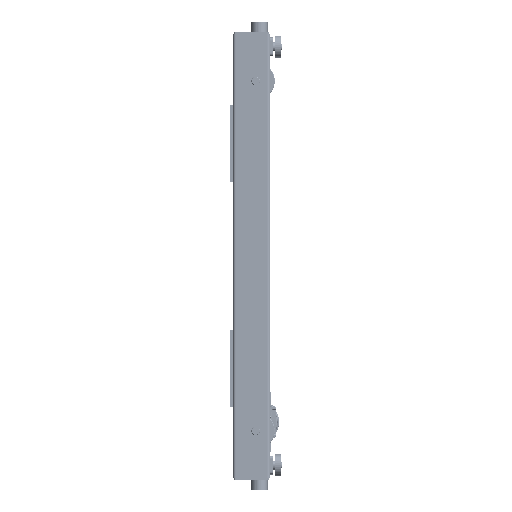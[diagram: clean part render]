
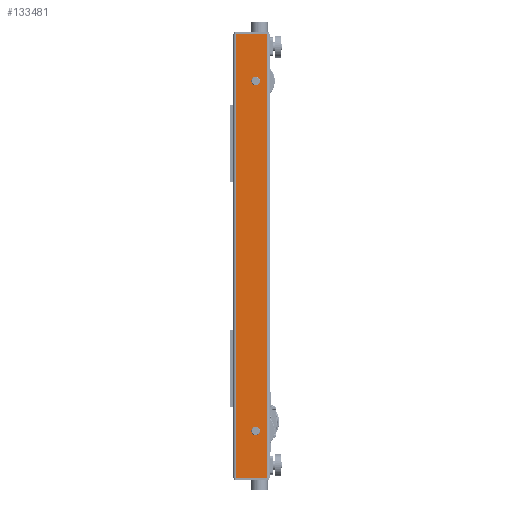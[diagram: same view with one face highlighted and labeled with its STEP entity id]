
A CAD part, left-side view. The second image highlights one B-rep face of the part: STEP entity #133481.
In plain terms, the highlighted planar face has unit normal (-1, 0, 0).
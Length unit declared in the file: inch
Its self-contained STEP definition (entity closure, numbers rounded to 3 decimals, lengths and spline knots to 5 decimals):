
#1103 = VERTEX_POINT ( 'NONE', #14510 ) ;
#1213 = VERTEX_POINT ( 'NONE', #6618 ) ;
#1687 = EDGE_CURVE ( 'NONE', #52474, #76353, #186018, .T. ) ;
#2762 = DIRECTION ( 'NONE',  ( 1., 0., 0. ) ) ;
#3041 = EDGE_CURVE ( 'NONE', #1213, #78931, #78334, .T. ) ;
#4545 = VERTEX_POINT ( 'NONE', #149749 ) ;
#5867 = EDGE_CURVE ( 'NONE', #183522, #4545, #170584, .T. ) ;
#6371 = CARTESIAN_POINT ( 'NONE',  ( 0., 0.5, 71.125 ) ) ;
#6618 = CARTESIAN_POINT ( 'NONE',  ( 0., 5.5, 71.125 ) ) ;
#7115 = FACE_BOUND ( 'NONE', #170871, .T. ) ;
#8758 = EDGE_CURVE ( 'NONE', #4545, #183522, #71787, .T. ) ;
#12477 = EDGE_CURVE ( 'NONE', #78931, #76353, #116049, .T. ) ;
#14510 = CARTESIAN_POINT ( 'NONE',  ( 0., 3.016, 63.562 ) ) ;
#17351 = DIRECTION ( 'NONE',  ( 0., 0., -1. ) ) ;
#32669 = CARTESIAN_POINT ( 'NONE',  ( 0., 5.5, 71.125 ) ) ;
#32914 = VECTOR ( 'NONE', #145118, 39.37008 ) ;
#36503 = DIRECTION ( 'NONE',  ( 0., 0., -1. ) ) ;
#40735 = ORIENTED_EDGE ( 'NONE', *, *, #8758, .T. ) ;
#44345 = CARTESIAN_POINT ( 'NONE',  ( 0., 2.326, 7.563 ) ) ;
#46601 = DIRECTION ( 'NONE',  ( 1., 0., 0. ) ) ;
#47552 = CARTESIAN_POINT ( 'NONE',  ( 0., 0.5, 71.125 ) ) ;
#50162 = DIRECTION ( 'NONE',  ( 0., 0., -1. ) ) ;
#52474 = VERTEX_POINT ( 'NONE', #71275 ) ;
#53886 = ORIENTED_EDGE ( 'NONE', *, *, #174224, .F. ) ;
#56152 = DIRECTION ( 'NONE',  ( 0., 1., 0. ) ) ;
#57044 = CARTESIAN_POINT ( 'NONE',  ( 0., 5.5, 0. ) ) ;
#62519 = EDGE_CURVE ( 'NONE', #1103, #108904, #179987, .T. ) ;
#65642 = CARTESIAN_POINT ( 'NONE',  ( 0., 0.5, 71.125 ) ) ;
#66406 = AXIS2_PLACEMENT_3D ( 'NONE', #135913, #46601, #137803 ) ;
#70213 = LINE ( 'NONE', #65642, #133834 ) ;
#71275 = CARTESIAN_POINT ( 'NONE',  ( 0., 0.5, 71.125 ) ) ;
#71787 = CIRCLE ( 'NONE', #146144, 0.69 ) ;
#75167 = ORIENTED_EDGE ( 'NONE', *, *, #1687, .F. ) ;
#76353 = VERTEX_POINT ( 'NONE', #125243 ) ;
#77145 = AXIS2_PLACEMENT_3D ( 'NONE', #47552, #165959, #165004 ) ;
#78334 = LINE ( 'NONE', #32669, #167505 ) ;
#78931 = VERTEX_POINT ( 'NONE', #57044 ) ;
#86555 = VECTOR ( 'NONE', #36503, 39.37008 ) ;
#86961 = AXIS2_PLACEMENT_3D ( 'NONE', #44345, #178309, #148167 ) ;
#94439 = CIRCLE ( 'NONE', #66406, 0.69 ) ;
#94785 = DIRECTION ( 'NONE',  ( 0., -1., 0. ) ) ;
#96240 = DIRECTION ( 'NONE',  ( 1., 0., 0. ) ) ;
#100092 = CARTESIAN_POINT ( 'NONE',  ( 0., 2.326, 8.253 ) ) ;
#101780 = ORIENTED_EDGE ( 'NONE', *, *, #12477, .T. ) ;
#107206 = ORIENTED_EDGE ( 'NONE', *, *, #110548, .T. ) ;
#108904 = VERTEX_POINT ( 'NONE', #160876 ) ;
#110548 = EDGE_CURVE ( 'NONE', #108904, #1103, #94439, .T. ) ;
#116049 = LINE ( 'NONE', #173309, #32914 ) ;
#125243 = CARTESIAN_POINT ( 'NONE',  ( 0., 0.5, 0. ) ) ;
#127107 = EDGE_LOOP ( 'NONE', ( #40735, #171420 ) ) ;
#129517 = FACE_BOUND ( 'NONE', #127107, .T. ) ;
#133481 = ADVANCED_FACE ( 'NONE', ( #129517, #7115, #188691 ), #174126, .F. ) ;
#133834 = VECTOR ( 'NONE', #94785, 39.37008 ) ;
#135913 = CARTESIAN_POINT ( 'NONE',  ( 0., 2.326, 63.562 ) ) ;
#137803 = DIRECTION ( 'NONE',  ( 0., 1., 0. ) ) ;
#139649 = AXIS2_PLACEMENT_3D ( 'NONE', #155416, #96240, #56152 ) ;
#145118 = DIRECTION ( 'NONE',  ( 0., -1., 0. ) ) ;
#146144 = AXIS2_PLACEMENT_3D ( 'NONE', #150382, #2762, #17351 ) ;
#148167 = DIRECTION ( 'NONE',  ( 0., 0., -1. ) ) ;
#149749 = CARTESIAN_POINT ( 'NONE',  ( 0., 2.326, 6.873 ) ) ;
#149790 = ORIENTED_EDGE ( 'NONE', *, *, #3041, .T. ) ;
#150382 = CARTESIAN_POINT ( 'NONE',  ( 0., 2.326, 7.563 ) ) ;
#152586 = ORIENTED_EDGE ( 'NONE', *, *, #62519, .T. ) ;
#155416 = CARTESIAN_POINT ( 'NONE',  ( 0., 2.326, 63.562 ) ) ;
#160876 = CARTESIAN_POINT ( 'NONE',  ( 0., 1.636, 63.562 ) ) ;
#165004 = DIRECTION ( 'NONE',  ( 0., 1., 0. ) ) ;
#165959 = DIRECTION ( 'NONE',  ( 1., 0., 0. ) ) ;
#167505 = VECTOR ( 'NONE', #50162, 39.37008 ) ;
#170584 = CIRCLE ( 'NONE', #86961, 0.69 ) ;
#170871 = EDGE_LOOP ( 'NONE', ( #152586, #107206 ) ) ;
#171420 = ORIENTED_EDGE ( 'NONE', *, *, #5867, .T. ) ;
#173309 = CARTESIAN_POINT ( 'NONE',  ( 0., 0.5, 0. ) ) ;
#174126 = PLANE ( 'NONE',  #77145 ) ;
#174224 = EDGE_CURVE ( 'NONE', #1213, #52474, #70213, .T. ) ;
#178309 = DIRECTION ( 'NONE',  ( 1., 0., 0. ) ) ;
#179987 = CIRCLE ( 'NONE', #139649, 0.69 ) ;
#183522 = VERTEX_POINT ( 'NONE', #100092 ) ;
#186018 = LINE ( 'NONE', #6371, #86555 ) ;
#187570 = EDGE_LOOP ( 'NONE', ( #101780, #75167, #53886, #149790 ) ) ;
#188691 = FACE_OUTER_BOUND ( 'NONE', #187570, .T. ) ;
